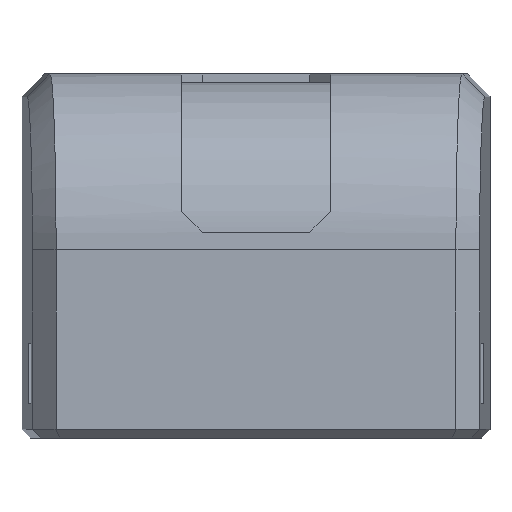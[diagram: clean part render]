
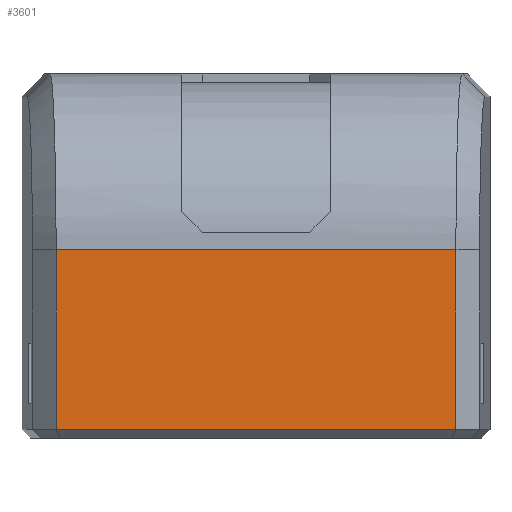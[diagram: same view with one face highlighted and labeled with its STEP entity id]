
A CAD part, front view. The second image highlights one B-rep face of the part: STEP entity #3601.
In plain terms, the highlighted planar face has unit normal (0, -1, 0).
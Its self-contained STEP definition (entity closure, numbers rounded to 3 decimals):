
#2085 = CYLINDRICAL_SURFACE('',#2086,10.);
#2086 = AXIS2_PLACEMENT_3D('',#2087,#2088,#2089);
#2087 = CARTESIAN_POINT('',(200.,-26.8,13.9));
#2088 = DIRECTION('',(1.,0.,-0.));
#2089 = DIRECTION('',(0.,-1.,0.));
#3424 = VERTEX_POINT('',#3425);
#3425 = CARTESIAN_POINT('',(11.364,-36.8,13.9));
#3516 = PLANE('',#3517);
#3517 = AXIS2_PLACEMENT_3D('',#3518,#3519,#3520);
#3518 = CARTESIAN_POINT('',(12.71,-35.501,2.2));
#3519 = DIRECTION('',(0.695,-0.719,0.));
#3520 = DIRECTION('',(-0.719,-0.695,0.));
#3551 = EDGE_CURVE('',#3424,#3552,#3554,.T.);
#3552 = VERTEX_POINT('',#3553);
#3553 = CARTESIAN_POINT('',(11.364,-36.8,3.7));
#3554 = SURFACE_CURVE('',#3555,(#3558,#3564),.PCURVE_S1.);
#3555 = B_SPLINE_CURVE_WITH_KNOTS('',1,(#3556,#3557),.UNSPECIFIED.,.F.,
  .F.,(2,2),(0.,1.),.PIECEWISE_BEZIER_KNOTS.);
#3556 = CARTESIAN_POINT('',(11.364,-36.8,13.9));
#3557 = CARTESIAN_POINT('',(11.364,-36.8,2.2));
#3558 = PCURVE('',#3516,#3559);
#3559 = DEFINITIONAL_REPRESENTATION('',(#3560),#3563);
#3560 = B_SPLINE_CURVE_WITH_KNOTS('',1,(#3561,#3562),.UNSPECIFIED.,.F.,
  .F.,(2,2),(0.,1.),.PIECEWISE_BEZIER_KNOTS.);
#3561 = CARTESIAN_POINT('',(1.87,-11.7));
#3562 = CARTESIAN_POINT('',(1.87,0.));
#3563 = ( GEOMETRIC_REPRESENTATION_CONTEXT(2) 
PARAMETRIC_REPRESENTATION_CONTEXT() REPRESENTATION_CONTEXT('2D SPACE',''
  ) );
#3564 = PCURVE('',#3565,#3570);
#3565 = PLANE('',#3566);
#3566 = AXIS2_PLACEMENT_3D('',#3567,#3568,#3569);
#3567 = CARTESIAN_POINT('',(-12.664,-36.8,3.2));
#3568 = DIRECTION('',(0.,1.,0.));
#3569 = DIRECTION('',(1.,0.,0.));
#3570 = DEFINITIONAL_REPRESENTATION('',(#3571),#3574);
#3571 = B_SPLINE_CURVE_WITH_KNOTS('',1,(#3572,#3573),.UNSPECIFIED.,.F.,
  .F.,(2,2),(0.,1.),.PIECEWISE_BEZIER_KNOTS.);
#3572 = CARTESIAN_POINT('',(24.029,-10.7));
#3573 = CARTESIAN_POINT('',(24.029,1.));
#3574 = ( GEOMETRIC_REPRESENTATION_CONTEXT(2) 
PARAMETRIC_REPRESENTATION_CONTEXT() REPRESENTATION_CONTEXT('2D SPACE',''
  ) );
#3601 = ADVANCED_FACE('',(#3602),#3565,.F.);
#3602 = FACE_BOUND('',#3603,.F.);
#3603 = EDGE_LOOP('',(#3604,#3632,#3657,#3678));
#3604 = ORIENTED_EDGE('',*,*,#3605,.T.);
#3605 = EDGE_CURVE('',#3552,#3606,#3608,.T.);
#3606 = VERTEX_POINT('',#3607);
#3607 = CARTESIAN_POINT('',(-11.364,-36.8,3.7));
#3608 = SURFACE_CURVE('',#3609,(#3613,#3620),.PCURVE_S1.);
#3609 = LINE('',#3610,#3611);
#3610 = CARTESIAN_POINT('',(11.364,-36.8,3.7));
#3611 = VECTOR('',#3612,1.);
#3612 = DIRECTION('',(-1.,0.,0.));
#3613 = PCURVE('',#3565,#3614);
#3614 = DEFINITIONAL_REPRESENTATION('',(#3615),#3619);
#3615 = LINE('',#3616,#3617);
#3616 = CARTESIAN_POINT('',(24.029,-0.5));
#3617 = VECTOR('',#3618,1.);
#3618 = DIRECTION('',(-1.,0.));
#3619 = ( GEOMETRIC_REPRESENTATION_CONTEXT(2) 
PARAMETRIC_REPRESENTATION_CONTEXT() REPRESENTATION_CONTEXT('2D SPACE',''
  ) );
#3620 = PCURVE('',#3621,#3626);
#3621 = B_SPLINE_SURFACE_WITH_KNOTS('',1,1,(
    (#3622,#3623)
    ,(#3624,#3625
    )),.UNSPECIFIED.,.F.,.F.,.F.,(2,2),(2,2),(0.,22.729),(0.,1.),
  .PIECEWISE_BEZIER_KNOTS.);
#3622 = CARTESIAN_POINT('',(11.158,-36.29,3.19));
#3623 = CARTESIAN_POINT('',(11.364,-36.8,3.7));
#3624 = CARTESIAN_POINT('',(-11.158,-36.29,3.19));
#3625 = CARTESIAN_POINT('',(-11.364,-36.8,3.7));
#3626 = DEFINITIONAL_REPRESENTATION('',(#3627),#3631);
#3627 = LINE('',#3628,#3629);
#3628 = CARTESIAN_POINT('',(0.,1.));
#3629 = VECTOR('',#3630,1.);
#3630 = DIRECTION('',(1.,0.));
#3631 = ( GEOMETRIC_REPRESENTATION_CONTEXT(2) 
PARAMETRIC_REPRESENTATION_CONTEXT() REPRESENTATION_CONTEXT('2D SPACE',''
  ) );
#3632 = ORIENTED_EDGE('',*,*,#3633,.F.);
#3633 = EDGE_CURVE('',#3634,#3606,#3636,.T.);
#3634 = VERTEX_POINT('',#3635);
#3635 = CARTESIAN_POINT('',(-11.364,-36.8,13.9));
#3636 = SURFACE_CURVE('',#3637,(#3640,#3646),.PCURVE_S1.);
#3637 = B_SPLINE_CURVE_WITH_KNOTS('',1,(#3638,#3639),.UNSPECIFIED.,.F.,
  .F.,(2,2),(0.,1.),.PIECEWISE_BEZIER_KNOTS.);
#3638 = CARTESIAN_POINT('',(-11.364,-36.8,13.9));
#3639 = CARTESIAN_POINT('',(-11.364,-36.8,2.2));
#3640 = PCURVE('',#3565,#3641);
#3641 = DEFINITIONAL_REPRESENTATION('',(#3642),#3645);
#3642 = B_SPLINE_CURVE_WITH_KNOTS('',1,(#3643,#3644),.UNSPECIFIED.,.F.,
  .F.,(2,2),(0.,1.),.PIECEWISE_BEZIER_KNOTS.);
#3643 = CARTESIAN_POINT('',(1.3,-10.7));
#3644 = CARTESIAN_POINT('',(1.3,1.));
#3645 = ( GEOMETRIC_REPRESENTATION_CONTEXT(2) 
PARAMETRIC_REPRESENTATION_CONTEXT() REPRESENTATION_CONTEXT('2D SPACE',''
  ) );
#3646 = PCURVE('',#3647,#3652);
#3647 = PLANE('',#3648);
#3648 = AXIS2_PLACEMENT_3D('',#3649,#3650,#3651);
#3649 = CARTESIAN_POINT('',(-12.71,-35.501,2.2));
#3650 = DIRECTION('',(0.695,0.719,-0.));
#3651 = DIRECTION('',(0.719,-0.695,0.));
#3652 = DEFINITIONAL_REPRESENTATION('',(#3653),#3656);
#3653 = B_SPLINE_CURVE_WITH_KNOTS('',1,(#3654,#3655),.UNSPECIFIED.,.F.,
  .F.,(2,2),(0.,1.),.PIECEWISE_BEZIER_KNOTS.);
#3654 = CARTESIAN_POINT('',(1.87,-11.7));
#3655 = CARTESIAN_POINT('',(1.87,0.));
#3656 = ( GEOMETRIC_REPRESENTATION_CONTEXT(2) 
PARAMETRIC_REPRESENTATION_CONTEXT() REPRESENTATION_CONTEXT('2D SPACE',''
  ) );
#3657 = ORIENTED_EDGE('',*,*,#3658,.F.);
#3658 = EDGE_CURVE('',#3424,#3634,#3659,.T.);
#3659 = SURFACE_CURVE('',#3660,(#3664,#3671),.PCURVE_S1.);
#3660 = LINE('',#3661,#3662);
#3661 = CARTESIAN_POINT('',(200.,-36.8,13.9));
#3662 = VECTOR('',#3663,1.);
#3663 = DIRECTION('',(-1.,0.,0.));
#3664 = PCURVE('',#3565,#3665);
#3665 = DEFINITIONAL_REPRESENTATION('',(#3666),#3670);
#3666 = LINE('',#3667,#3668);
#3667 = CARTESIAN_POINT('',(212.664,-10.7));
#3668 = VECTOR('',#3669,1.);
#3669 = DIRECTION('',(-1.,0.));
#3670 = ( GEOMETRIC_REPRESENTATION_CONTEXT(2) 
PARAMETRIC_REPRESENTATION_CONTEXT() REPRESENTATION_CONTEXT('2D SPACE',''
  ) );
#3671 = PCURVE('',#2085,#3672);
#3672 = DEFINITIONAL_REPRESENTATION('',(#3673),#3677);
#3673 = LINE('',#3674,#3675);
#3674 = CARTESIAN_POINT('',(-0.,0.));
#3675 = VECTOR('',#3676,1.);
#3676 = DIRECTION('',(-0.,-1.));
#3677 = ( GEOMETRIC_REPRESENTATION_CONTEXT(2) 
PARAMETRIC_REPRESENTATION_CONTEXT() REPRESENTATION_CONTEXT('2D SPACE',''
  ) );
#3678 = ORIENTED_EDGE('',*,*,#3551,.T.);
